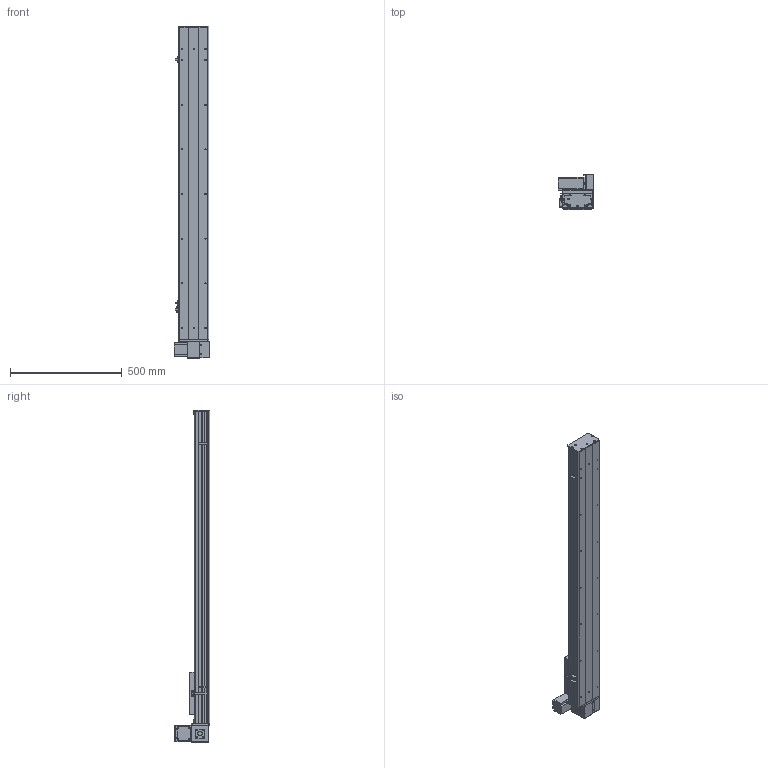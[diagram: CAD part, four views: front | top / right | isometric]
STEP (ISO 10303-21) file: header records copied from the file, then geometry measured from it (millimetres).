
FILE_DESCRIPTION (( 'STEP AP203' ), '1' );
FILE_NAME ('Y135CB-D90-S1100-UL-P400W.STEP', '2020-02-18T07:24:49', ( '微软用户' ), ( '微软中国' ), 'SwSTEP 2.0', 'SolidWorks 2017', '' );
FILE_SCHEMA (( 'CONFIG_CONTROL_DESIGN' ));
Length unit declared in the file: millimetre
Products named in the file (18): Y100-135俋离換覜ん--; Y135C-陔俋离換覜結え-; Y135CB-耜裔; 5C--俋欶; 0B-源倛裔啣; 135CB---遴掛极.-; C-雄赽釱--; 0B-萇儂楊擘啣; 35CB---喘謫眊楊擘啣; Y10B-耜蚾蟀諉啣----; san松下电机400不带刹车----; 0B-埴倛裔啣; 00B-俋欶BM--; 5CB --掛极耜裔啣-; 135CB--詩湍-CE; Y10B--々湍喘謫眊--666; C-詩湍揤踡え-陔; Y135CB-D90-S1100-UL-P400W
Assembly tree (21 placements, depth 2):
  Y135CB-D90-S1100-UL-P400W
    Y135CB-耜裔
    135CB---遴掛极.-
    35CB---喘謫眊楊擘啣
    0B-埴倛裔啣
    0B-源倛裔啣
    0B-萇儂楊擘啣
    san松下电机400不带刹车----
    5CB --掛极耜裔啣-  x2
    C-詩湍揤踡え-陔  x2
    135CB--詩湍-CE
    Y100-135俋离換覜ん--  x3
    Y135C-陔俋离換覜結え-
    5C--俋欶
    C-雄赽釱--
    Y10B-耜蚾蟀諉啣----
    00B-俋欶BM--
    Y10B--々湍喘謫眊--666
Bounding box: 157 x 158.7 x 1488 mm (x, y, z)
Volume: 4646029.9 mm3; surface area: 1820524 mm2
Topology: 21 solids, 21 shells, 949 faces, 2545 edges, 1686 vertices
Faces by surface type: cylinder 477, plane 456, cone 16
Entity records: 29551 total; most frequent: DIRECTION 4909, CARTESIAN_POINT 4856, ORIENTED_EDGE 4566, EDGE_CURVE 2283, AXIS2_PLACEMENT_3D 1791, VERTEX_POINT 1514, VECTOR 1327, LINE 1327
